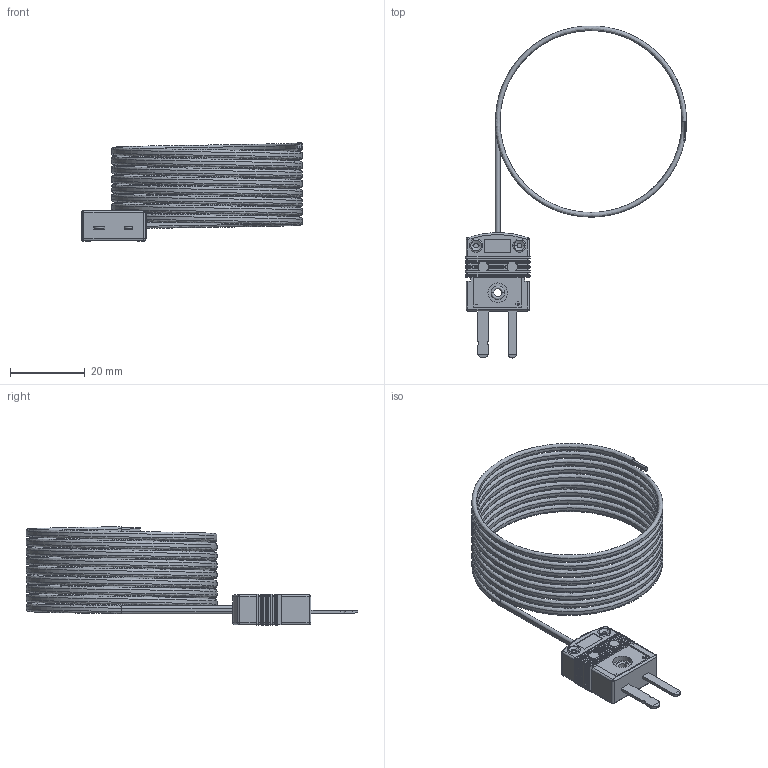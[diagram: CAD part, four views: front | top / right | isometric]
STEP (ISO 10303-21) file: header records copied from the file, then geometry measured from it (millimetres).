
FILE_DESCRIPTION (( 'STEP AP214' ), '1' );
FILE_NAME ('Ready-made pre-wired thermocouple probe.STEP', '2024-06-24T15:42:50', ( '' ), ( '' ), 'SwSTEP 2.0', 'SolidWorks 2021', '' );
FILE_SCHEMA (( 'AUTOMOTIVE_DESIGN' ));
Length unit declared in the file: millimetre
Products named in the file (1): Ready-made pre-wired thermocouple probe
Bounding box: 59.26 x 88.98 x 26.45 mm (x, y, z)
Volume: 5691.6 mm3; surface area: 9849.9 mm2
Topology: 7 solids, 7 shells, 555 faces, 1249 edges, 696 vertices
Faces by surface type: plane 284, cylinder 181, torus 50, sphere 32, cone 4, bspline 4
Entity records: 20099 total; most frequent: CARTESIAN_POINT 7581, DIRECTION 2741, ORIENTED_EDGE 2450, EDGE_CURVE 1225, AXIS2_PLACEMENT_3D 992, LINE 757, VECTOR 757, VERTEX_POINT 696
